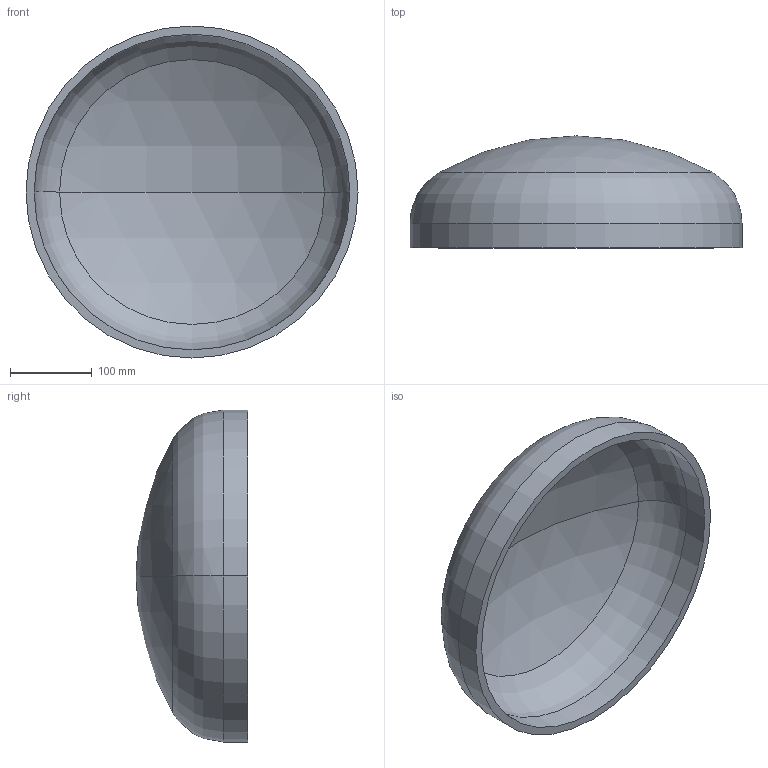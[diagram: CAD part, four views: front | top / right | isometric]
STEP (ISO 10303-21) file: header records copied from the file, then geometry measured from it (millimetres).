
FILE_DESCRIPTION (( 'STEP AP203' ), '1' );
FILE_NAME ('DIN 28013 Korbbogenform_-_Boden DIN 28013 - 406,4 x 30 - I - s=10.step', '2016-07-01T07:48:55', ( '' ), ( '' ), 'SwSTEP 2.0', 'SolidWorks 2013', '' );
FILE_SCHEMA (( 'CONFIG_CONTROL_DESIGN' ));
Length unit declared in the file: millimetre
Products named in the file (1): DIN 28013 Korbbogenform_-_Boden DIN 28013 - 406,4 x 30 - I - s=10
Bounding box: 406.4 x 137.06 x 406.4 mm (x, y, z)
Volume: 2109890.1 mm3; surface area: 434640.6 mm2
Topology: 1 solids, 1 shells, 13 faces, 24 edges, 14 vertices
Faces by surface type: torus 4, cylinder 4, sphere 4, plane 1
Entity records: 407 total; most frequent: DIRECTION 72, CARTESIAN_POINT 52, ORIENTED_EDGE 48, AXIS2_PLACEMENT_3D 34, EDGE_CURVE 24, CIRCLE 20, EDGE_LOOP 14, VERTEX_POINT 14
